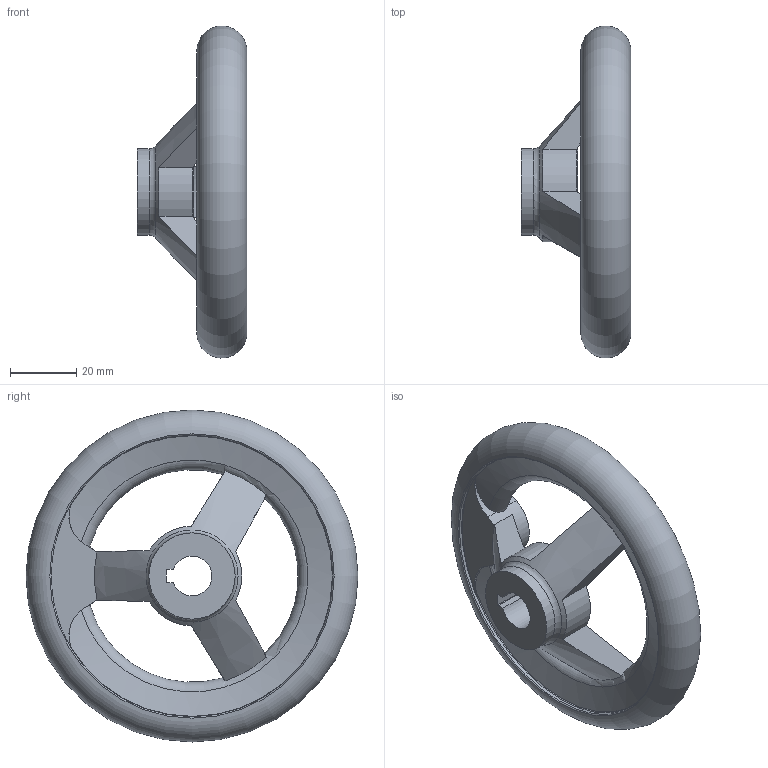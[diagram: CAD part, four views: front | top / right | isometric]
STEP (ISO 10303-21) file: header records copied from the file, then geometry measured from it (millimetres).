
FILE_DESCRIPTION( ( 'STEP AP203' ), '1' );
FILE_NAME( 'C:/Temp/Ganter_Step_05_03_2020/data/1_3/din_950/din_950_k/din_950_k_a/Handwheel DIN 950-GG-100-K12-A.stp', '2020-03-05T10:30:30', ( 'License CC BY-ND 4.0' ), ( 'CADENAS' ), ' ', 'PARTsolutions', ' ' );
FILE_SCHEMA( ( 'CONFIG_CONTROL_DESIGN' ) );
Length unit declared in the file: millimetre
Products named in the file (1): _Handwheel DIN 950-GG-100-K12-A
Bounding box: 33 x 99.97 x 99.97 mm (x, y, z)
Volume: 64013.2 mm3; surface area: 19521 mm2
Topology: 1 solids, 1 shells, 42 faces, 122 edges, 78 vertices
Faces by surface type: cylinder 15, plane 13, torus 10, cone 4
Full cylindrical faces by diameter (mm): 26 x2, 85 x2
Entity records: 1632 total; most frequent: CARTESIAN_POINT 576, ORIENTED_EDGE 210, DIRECTION 198, EDGE_CURVE 105, AXIS2_PLACEMENT_3D 87, VERTEX_POINT 75, EDGE_LOOP 59, FACE_OUTER_BOUND 53
